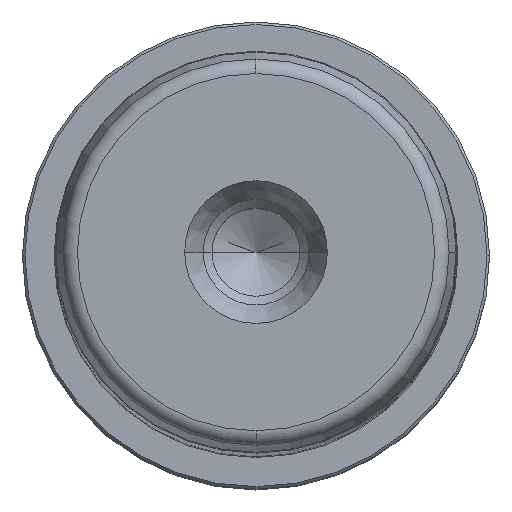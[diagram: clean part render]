
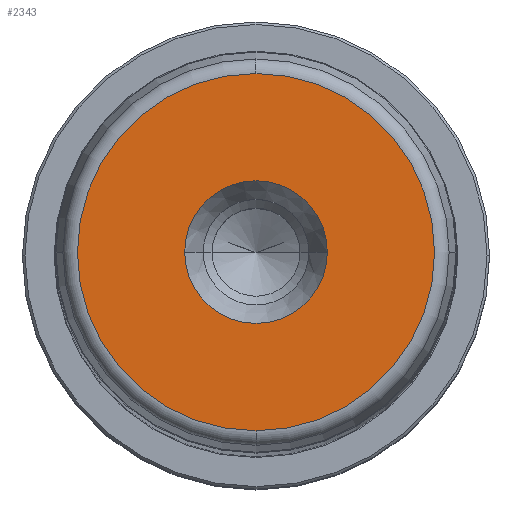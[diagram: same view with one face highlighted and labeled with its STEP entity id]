
A CAD part, top view. The second image highlights one B-rep face of the part: STEP entity #2343.
In plain terms, the highlighted planar face has unit normal (0, 0, 1).
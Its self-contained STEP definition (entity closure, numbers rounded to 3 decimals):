
#431=CARTESIAN_POINT('',(14.2,0.,400.0));
#432=VERTEX_POINT('',#431);
#439=CARTESIAN_POINT('',(-14.2,0.,400.0));
#440=VERTEX_POINT('',#439);
#441=CARTESIAN_POINT('',(0.0,0.,400.0));
#442=DIRECTION('',(0.0,0.0,1.0));
#443=DIRECTION('',(1.0,0.0,0.0));
#444=AXIS2_PLACEMENT_3D('',#441,#442,#443);
#445=CIRCLE('',#444,14.2);
#446=EDGE_CURVE('',#432,#440,#445,.T.);
#463=CARTESIAN_POINT('',(0.0,-35.554,400.));
#464=VERTEX_POINT('',#463);
#474=CARTESIAN_POINT('',(0.,35.554,400.0));
#475=VERTEX_POINT('',#474);
#476=CARTESIAN_POINT('',(0.0,0.,400.0));
#477=DIRECTION('',(0.0,0.0,1.0));
#478=DIRECTION('',(1.0,0.0,0.0));
#479=AXIS2_PLACEMENT_3D('',#476,#477,#478);
#480=CIRCLE('',#479,35.554);
#481=EDGE_CURVE('',#475,#464,#480,.T.);
#2304=CARTESIAN_POINT('',(35.554,0.,400.));
#2305=VERTEX_POINT('',#2304);
#2306=CARTESIAN_POINT('',(0.0,0.,400.0));
#2307=DIRECTION('',(0.0,0.0,1.0));
#2308=DIRECTION('',(1.0,0.0,0.0));
#2309=AXIS2_PLACEMENT_3D('',#2306,#2307,#2308);
#2310=CIRCLE('',#2309,35.554);
#2311=EDGE_CURVE('',#2305,#475,#2310,.T.);
#2313=CARTESIAN_POINT('',(0.0,0.,400.0));
#2314=DIRECTION('',(0.0,0.0,1.0));
#2315=DIRECTION('',(1.0,0.0,0.0));
#2316=AXIS2_PLACEMENT_3D('',#2313,#2314,#2315);
#2317=CIRCLE('',#2316,35.554);
#2318=EDGE_CURVE('',#464,#2305,#2317,.T.);
#2323=CARTESIAN_POINT('',(24.877,0.,400.0));
#2324=DIRECTION('',(0.0,0.0,1.0));
#2325=DIRECTION('',(0.0,-1.0,0.0));
#2326=AXIS2_PLACEMENT_3D('',#2323,#2324,#2325);
#2327=PLANE('',#2326);
#2328=ORIENTED_EDGE('',*,*,#2311,.T.);
#2329=ORIENTED_EDGE('',*,*,#481,.T.);
#2330=ORIENTED_EDGE('',*,*,#2318,.T.);
#2331=EDGE_LOOP('',(#2328,#2329,#2330));
#2332=FACE_OUTER_BOUND('',#2331,.T.);
#2333=ORIENTED_EDGE('',*,*,#446,.F.);
#2334=CARTESIAN_POINT('',(0.0,0.,400.0));
#2335=DIRECTION('',(0.0,0.0,1.0));
#2336=DIRECTION('',(1.0,0.0,0.0));
#2337=AXIS2_PLACEMENT_3D('',#2334,#2335,#2336);
#2338=CIRCLE('',#2337,14.2);
#2339=EDGE_CURVE('',#440,#432,#2338,.T.);
#2340=ORIENTED_EDGE('',*,*,#2339,.F.);
#2341=EDGE_LOOP('',(#2333,#2340));
#2342=FACE_BOUND('',#2341,.T.);
#2343=ADVANCED_FACE('',(#2332,#2342),#2327,.T.);
